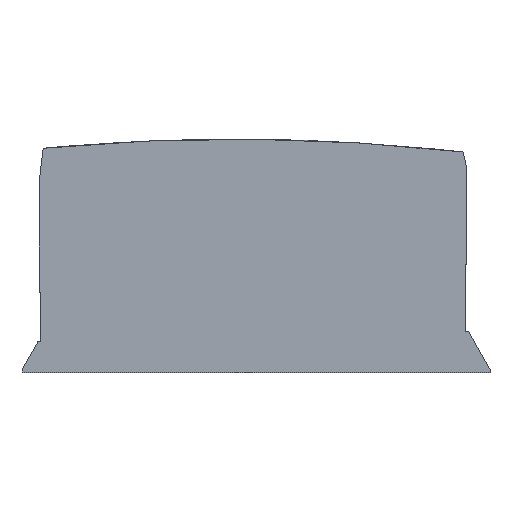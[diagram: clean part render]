
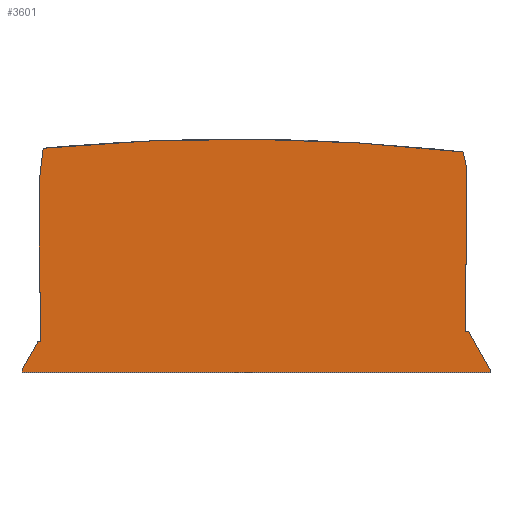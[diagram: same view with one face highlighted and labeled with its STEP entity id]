
A CAD part, top view. The second image highlights one B-rep face of the part: STEP entity #3601.
In plain terms, the highlighted planar face has unit normal (0, 0, 1).
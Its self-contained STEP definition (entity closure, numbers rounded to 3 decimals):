
#1276=AXIS2_PLACEMENT_3D('Circle Axis2P3D',#1274,#1275,$) ;
#3420=AXIS2_PLACEMENT_3D('Plane Axis2P3D',#3417,#3418,#3419) ;
#1271=CARTESIAN_POINT('Vertex',(-216.343,153.459,235.)) ;
#1274=CARTESIAN_POINT('Axis2P3D Location',(5.226,-2173.866,235.)) ;
#1278=CARTESIAN_POINT('Vertex',(268.523,149.108,235.)) ;
#3395=CARTESIAN_POINT('Vertex',(-220.717,116.376,235.)) ;
#3398=CARTESIAN_POINT('Line Origine',(-218.53,134.917,235.)) ;
#3417=CARTESIAN_POINT('Axis2P3D Location',(5.226,-2173.866,235.)) ;
#3422=CARTESIAN_POINT('Line Origine',(-220.717,52.35,235.)) ;
#3426=CARTESIAN_POINT('Vertex',(-220.717,-11.675,235.)) ;
#3430=CARTESIAN_POINT('Control Point',(-220.717,-11.675,235.)) ;
#3431=CARTESIAN_POINT('Control Point',(-220.717,-11.773,235.)) ;
#3432=CARTESIAN_POINT('Control Point',(-220.705,-11.871,235.)) ;
#3433=CARTESIAN_POINT('Control Point',(-220.681,-11.967,235.)) ;
#3434=CARTESIAN_POINT('Control Point',(-220.61,-12.151,235.)) ;
#3435=CARTESIAN_POINT('Control Point',(-220.497,-12.313,235.)) ;
#3436=CARTESIAN_POINT('Control Point',(-220.43,-12.386,235.)) ;
#3437=CARTESIAN_POINT('Control Point',(-220.281,-12.516,235.)) ;
#3438=CARTESIAN_POINT('Control Point',(-220.105,-12.605,235.)) ;
#3439=CARTESIAN_POINT('Control Point',(-220.012,-12.638,235.)) ;
#3440=CARTESIAN_POINT('Control Point',(-219.896,-12.665,235.)) ;
#3441=CARTESIAN_POINT('Control Point',(-219.778,-12.674,235.)) ;
#3442=CARTESIAN_POINT('Control Point',(-219.758,-12.675,235.)) ;
#3443=CARTESIAN_POINT('Control Point',(-219.737,-12.675,235.)) ;
#3444=CARTESIAN_POINT('Control Point',(-219.717,-12.675,235.)) ;
#3445=CARTESIAN_POINT('Vertex',(-219.717,-12.675,235.)) ;
#3448=CARTESIAN_POINT('Line Origine',(-219.467,-12.675,235.)) ;
#3452=CARTESIAN_POINT('Vertex',(-219.217,-12.675,235.)) ;
#3455=CARTESIAN_POINT('Line Origine',(-219.217,-41.179,235.)) ;
#3459=CARTESIAN_POINT('Vertex',(-219.217,-69.683,235.)) ;
#3462=CARTESIAN_POINT('Line Origine',(-220.497,-69.683,235.)) ;
#3466=CARTESIAN_POINT('Vertex',(-221.776,-69.683,235.)) ;
#3470=CARTESIAN_POINT('Control Point',(-221.776,-69.683,235.)) ;
#3471=CARTESIAN_POINT('Control Point',(-221.902,-69.683,235.)) ;
#3472=CARTESIAN_POINT('Control Point',(-222.029,-69.703,235.)) ;
#3473=CARTESIAN_POINT('Control Point',(-222.151,-69.743,235.)) ;
#3474=CARTESIAN_POINT('Control Point',(-222.34,-69.84,235.)) ;
#3475=CARTESIAN_POINT('Control Point',(-222.497,-69.982,235.)) ;
#3476=CARTESIAN_POINT('Control Point',(-222.553,-70.046,235.)) ;
#3477=CARTESIAN_POINT('Control Point',(-222.603,-70.114,235.)) ;
#3478=CARTESIAN_POINT('Control Point',(-222.645,-70.187,235.)) ;
#3479=CARTESIAN_POINT('Vertex',(-222.645,-70.187,235.)) ;
#3482=CARTESIAN_POINT('Line Origine',(-231.681,-86.001,235.)) ;
#3486=CARTESIAN_POINT('Vertex',(-240.717,-101.814,235.)) ;
#3489=CARTESIAN_POINT('Line Origine',(-240.717,-103.517,235.)) ;
#3493=CARTESIAN_POINT('Vertex',(-240.717,-105.219,235.)) ;
#3496=CARTESIAN_POINT('Line Origine',(29.283,-105.219,235.)) ;
#3500=CARTESIAN_POINT('Vertex',(299.283,-105.219,235.)) ;
#3503=CARTESIAN_POINT('Line Origine',(299.283,-103.517,235.)) ;
#3507=CARTESIAN_POINT('Vertex',(299.283,-101.814,235.)) ;
#3510=CARTESIAN_POINT('Line Origine',(287.189,-80.332,235.)) ;
#3514=CARTESIAN_POINT('Vertex',(275.095,-58.849,235.)) ;
#3518=CARTESIAN_POINT('Control Point',(275.095,-58.849,235.)) ;
#3519=CARTESIAN_POINT('Control Point',(275.006,-58.643,235.)) ;
#3520=CARTESIAN_POINT('Control Point',(274.893,-58.448,235.)) ;
#3521=CARTESIAN_POINT('Control Point',(274.756,-58.268,235.)) ;
#3522=CARTESIAN_POINT('Control Point',(274.442,-57.943,235.)) ;
#3523=CARTESIAN_POINT('Control Point',(274.06,-57.703,235.)) ;
#3524=CARTESIAN_POINT('Control Point',(273.855,-57.606,235.)) ;
#3525=CARTESIAN_POINT('Control Point',(273.617,-57.527,235.)) ;
#3526=CARTESIAN_POINT('Control Point',(273.372,-57.481,235.)) ;
#3527=CARTESIAN_POINT('Control Point',(273.347,-57.477,235.)) ;
#3528=CARTESIAN_POINT('Control Point',(273.322,-57.473,235.)) ;
#3529=CARTESIAN_POINT('Control Point',(273.298,-57.469,235.)) ;
#3530=CARTESIAN_POINT('Vertex',(273.298,-57.469,235.)) ;
#3533=CARTESIAN_POINT('Line Origine',(271.992,-57.469,235.)) ;
#3537=CARTESIAN_POINT('Vertex',(270.687,-57.469,235.)) ;
#3540=CARTESIAN_POINT('Line Origine',(270.687,-18.856,235.)) ;
#3544=CARTESIAN_POINT('Vertex',(270.687,19.756,235.)) ;
#3547=CARTESIAN_POINT('Line Origine',(271.065,19.756,235.)) ;
#3551=CARTESIAN_POINT('Vertex',(271.443,19.756,235.)) ;
#3555=CARTESIAN_POINT('Control Point',(271.443,19.756,235.)) ;
#3556=CARTESIAN_POINT('Control Point',(271.556,19.745,235.)) ;
#3557=CARTESIAN_POINT('Control Point',(271.67,19.752,235.)) ;
#3558=CARTESIAN_POINT('Control Point',(271.783,19.776,235.)) ;
#3559=CARTESIAN_POINT('Control Point',(271.961,19.844,235.)) ;
#3560=CARTESIAN_POINT('Control Point',(272.116,19.953,235.)) ;
#3561=CARTESIAN_POINT('Control Point',(272.173,20.004,235.)) ;
#3562=CARTESIAN_POINT('Control Point',(272.225,20.059,235.)) ;
#3563=CARTESIAN_POINT('Control Point',(272.27,20.12,235.)) ;
#3564=CARTESIAN_POINT('Vertex',(272.27,20.12,235.)) ;
#3567=CARTESIAN_POINT('Line Origine',(272.27,75.876,235.)) ;
#3571=CARTESIAN_POINT('Vertex',(272.27,131.632,235.)) ;
#3574=CARTESIAN_POINT('Line Origine',(270.396,140.37,235.)) ;
#1275=DIRECTION('Axis2P3D Direction',(-0.,0.,-1.)) ;
#3399=DIRECTION('Vector Direction',(-0.117,-0.993,0.)) ;
#3418=DIRECTION('Axis2P3D Direction',(0.,0.,-1.)) ;
#3419=DIRECTION('Axis2P3D XDirection',(-1.,0.,0.)) ;
#3423=DIRECTION('Vector Direction',(0.,-1.,0.)) ;
#3449=DIRECTION('Vector Direction',(1.,0.,0.)) ;
#3456=DIRECTION('Vector Direction',(0.,-1.,0.)) ;
#3463=DIRECTION('Vector Direction',(-1.,0.,0.)) ;
#3483=DIRECTION('Vector Direction',(-0.496,-0.868,0.)) ;
#3490=DIRECTION('Vector Direction',(0.,-1.,0.)) ;
#3497=DIRECTION('Vector Direction',(1.,0.,0.)) ;
#3504=DIRECTION('Vector Direction',(0.,1.,0.)) ;
#3511=DIRECTION('Vector Direction',(-0.491,0.871,0.)) ;
#3534=DIRECTION('Vector Direction',(-1.,0.,0.)) ;
#3541=DIRECTION('Vector Direction',(0.,1.,0.)) ;
#3548=DIRECTION('Vector Direction',(1.,0.,0.)) ;
#3568=DIRECTION('Vector Direction',(0.,1.,0.)) ;
#3575=DIRECTION('Vector Direction',(-0.21,0.978,0.)) ;
#3400=VECTOR('Line Direction',#3399,1.) ;
#3424=VECTOR('Line Direction',#3423,1.) ;
#3450=VECTOR('Line Direction',#3449,1.) ;
#3457=VECTOR('Line Direction',#3456,1.) ;
#3464=VECTOR('Line Direction',#3463,1.) ;
#3484=VECTOR('Line Direction',#3483,1.) ;
#3491=VECTOR('Line Direction',#3490,1.) ;
#3498=VECTOR('Line Direction',#3497,1.) ;
#3505=VECTOR('Line Direction',#3504,1.) ;
#3512=VECTOR('Line Direction',#3511,1.) ;
#3535=VECTOR('Line Direction',#3534,1.) ;
#3542=VECTOR('Line Direction',#3541,1.) ;
#3549=VECTOR('Line Direction',#3548,1.) ;
#3569=VECTOR('Line Direction',#3568,1.) ;
#3576=VECTOR('Line Direction',#3575,1.) ;
#3580=ORIENTED_EDGE('',*,*,#1280,.T.) ;
#3581=ORIENTED_EDGE('',*,*,#3402,.T.) ;
#3582=ORIENTED_EDGE('',*,*,#3428,.T.) ;
#3583=ORIENTED_EDGE('',*,*,#3447,.T.) ;
#3584=ORIENTED_EDGE('',*,*,#3454,.T.) ;
#3585=ORIENTED_EDGE('',*,*,#3461,.T.) ;
#3586=ORIENTED_EDGE('',*,*,#3468,.T.) ;
#3587=ORIENTED_EDGE('',*,*,#3481,.T.) ;
#3588=ORIENTED_EDGE('',*,*,#3488,.T.) ;
#3589=ORIENTED_EDGE('',*,*,#3495,.T.) ;
#3590=ORIENTED_EDGE('',*,*,#3502,.T.) ;
#3591=ORIENTED_EDGE('',*,*,#3509,.T.) ;
#3592=ORIENTED_EDGE('',*,*,#3516,.T.) ;
#3593=ORIENTED_EDGE('',*,*,#3532,.T.) ;
#3594=ORIENTED_EDGE('',*,*,#3539,.T.) ;
#3595=ORIENTED_EDGE('',*,*,#3546,.T.) ;
#3596=ORIENTED_EDGE('',*,*,#3553,.T.) ;
#3597=ORIENTED_EDGE('',*,*,#3566,.T.) ;
#3598=ORIENTED_EDGE('',*,*,#3573,.T.) ;
#3599=ORIENTED_EDGE('',*,*,#3578,.T.) ;
#3601=ADVANCED_FACE('VERTIMO E SIZE E',(#3600),#3421,.F.) ;
#3429=B_SPLINE_CURVE_WITH_KNOTS('',5,(#3430,#3431,#3432,#3433,#3434,#3435,#3436,#3437,#3438,#3439,#3440,#3441,#3442,#3443,#3444),.UNSPECIFIED.,.F.,.U.,(6,3,3,3,6),(0.,0.693,1.386,2.078,2.221),.UNSPECIFIED.) ;
#3469=B_SPLINE_CURVE_WITH_KNOTS('',5,(#3470,#3471,#3472,#3473,#3474,#3475,#3476,#3477,#3478),.UNSPECIFIED.,.F.,.U.,(6,3,6),(0.,0.892,1.487),.UNSPECIFIED.) ;
#3517=B_SPLINE_CURVE_WITH_KNOTS('',5,(#3518,#3519,#3520,#3521,#3522,#3523,#3524,#3525,#3526,#3527,#3528,#3529),.UNSPECIFIED.,.F.,.U.,(6,3,3,6),(0.,1.585,3.169,3.347),.UNSPECIFIED.) ;
#3554=B_SPLINE_CURVE_WITH_KNOTS('',5,(#3555,#3556,#3557,#3558,#3559,#3560,#3561,#3562,#3563),.UNSPECIFIED.,.F.,.U.,(6,3,6),(0.,0.801,1.335),.UNSPECIFIED.) ;
#1277=CIRCLE('generated circle',#1276,2337.848) ;
#1280=EDGE_CURVE('',#1279,#1272,#1277,.F.) ;
#3402=EDGE_CURVE('',#1272,#3396,#3401,.T.) ;
#3428=EDGE_CURVE('',#3396,#3427,#3425,.T.) ;
#3447=EDGE_CURVE('',#3427,#3446,#3429,.T.) ;
#3454=EDGE_CURVE('',#3446,#3453,#3451,.T.) ;
#3461=EDGE_CURVE('',#3453,#3460,#3458,.T.) ;
#3468=EDGE_CURVE('',#3460,#3467,#3465,.T.) ;
#3481=EDGE_CURVE('',#3467,#3480,#3469,.T.) ;
#3488=EDGE_CURVE('',#3480,#3487,#3485,.T.) ;
#3495=EDGE_CURVE('',#3487,#3494,#3492,.T.) ;
#3502=EDGE_CURVE('',#3494,#3501,#3499,.T.) ;
#3509=EDGE_CURVE('',#3501,#3508,#3506,.T.) ;
#3516=EDGE_CURVE('',#3508,#3515,#3513,.T.) ;
#3532=EDGE_CURVE('',#3515,#3531,#3517,.T.) ;
#3539=EDGE_CURVE('',#3531,#3538,#3536,.T.) ;
#3546=EDGE_CURVE('',#3538,#3545,#3543,.T.) ;
#3553=EDGE_CURVE('',#3545,#3552,#3550,.T.) ;
#3566=EDGE_CURVE('',#3552,#3565,#3554,.T.) ;
#3573=EDGE_CURVE('',#3565,#3572,#3570,.T.) ;
#3578=EDGE_CURVE('',#3572,#1279,#3577,.T.) ;
#3579=EDGE_LOOP('',(#3580,#3581,#3582,#3583,#3584,#3585,#3586,#3587,#3588,#3589,#3590,#3591,#3592,#3593,#3594,#3595,#3596,#3597,#3598,#3599)) ;
#3600=FACE_OUTER_BOUND('',#3579,.T.) ;
#3401=LINE('Line',#3398,#3400) ;
#3425=LINE('Line',#3422,#3424) ;
#3451=LINE('Line',#3448,#3450) ;
#3458=LINE('Line',#3455,#3457) ;
#3465=LINE('Line',#3462,#3464) ;
#3485=LINE('Line',#3482,#3484) ;
#3492=LINE('Line',#3489,#3491) ;
#3499=LINE('Line',#3496,#3498) ;
#3506=LINE('Line',#3503,#3505) ;
#3513=LINE('Line',#3510,#3512) ;
#3536=LINE('Line',#3533,#3535) ;
#3543=LINE('Line',#3540,#3542) ;
#3550=LINE('Line',#3547,#3549) ;
#3570=LINE('Line',#3567,#3569) ;
#3577=LINE('Line',#3574,#3576) ;
#3421=PLANE('Plane',#3420) ;
#1272=VERTEX_POINT('',#1271) ;
#1279=VERTEX_POINT('',#1278) ;
#3396=VERTEX_POINT('',#3395) ;
#3427=VERTEX_POINT('',#3426) ;
#3446=VERTEX_POINT('',#3445) ;
#3453=VERTEX_POINT('',#3452) ;
#3460=VERTEX_POINT('',#3459) ;
#3467=VERTEX_POINT('',#3466) ;
#3480=VERTEX_POINT('',#3479) ;
#3487=VERTEX_POINT('',#3486) ;
#3494=VERTEX_POINT('',#3493) ;
#3501=VERTEX_POINT('',#3500) ;
#3508=VERTEX_POINT('',#3507) ;
#3515=VERTEX_POINT('',#3514) ;
#3531=VERTEX_POINT('',#3530) ;
#3538=VERTEX_POINT('',#3537) ;
#3545=VERTEX_POINT('',#3544) ;
#3552=VERTEX_POINT('',#3551) ;
#3565=VERTEX_POINT('',#3564) ;
#3572=VERTEX_POINT('',#3571) ;
